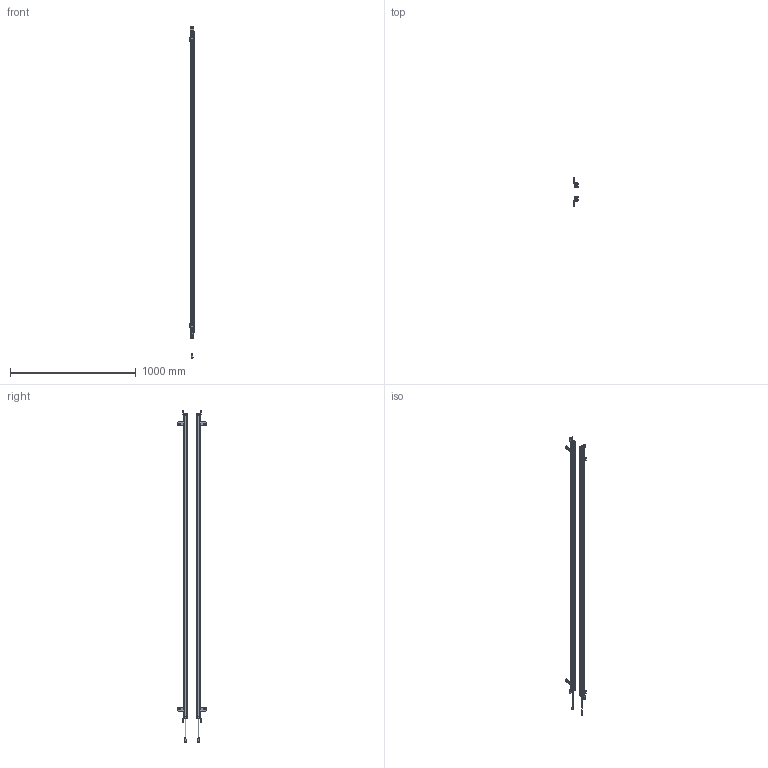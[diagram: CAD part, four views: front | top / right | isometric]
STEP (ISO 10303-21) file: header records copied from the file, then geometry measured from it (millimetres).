
FILE_DESCRIPTION(/* description */ (''),/* implementation_level */ '2;1');
FILE_NAME(/* name */ '6040（29x30).stp',/* time_stamp */ '2023-05-04T09:07:41+08:00',/* author */ (''),/* organization */ (''),/* preprocessor_version */ 'ST-DEVELOPER v16.7',/* originating_system */ 'SIEMENS PLM Software NX 12.0',/* authorisation */ '');
FILE_SCHEMA (('AUTOMOTIVE_DESIGN { 1 0 10303 214 3 1 1 1 }'));
Products named in the file (1): 2640（29x30__stp11
Bounding box: 32.03 x 223.99 x 2641 mm (x, y, z)
Volume: 1465543 mm3; surface area: 1504444.9 mm2
Topology: 34 solids, 34 shells, 1610 faces, 4267 edges, 2771 vertices
Faces by surface type: plane 750, cylinder 648, bspline 88, sphere 36, cone 36, torus 32, extrusion 20
Full cylindrical faces by diameter (mm): 1.533 x6, 4.4 x4, 9 x2, 12.5 x2
Entity records: 56427 total; most frequent: CARTESIAN_POINT 16064, DIRECTION 8330, ORIENTED_EDGE 8324, EDGE_CURVE 4162, AXIS2_PLACEMENT_3D 2918, VERTEX_POINT 2696, VECTOR 2494, LINE 2474
